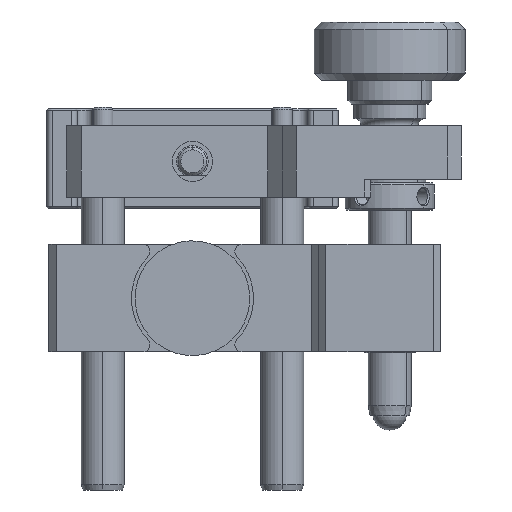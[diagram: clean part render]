
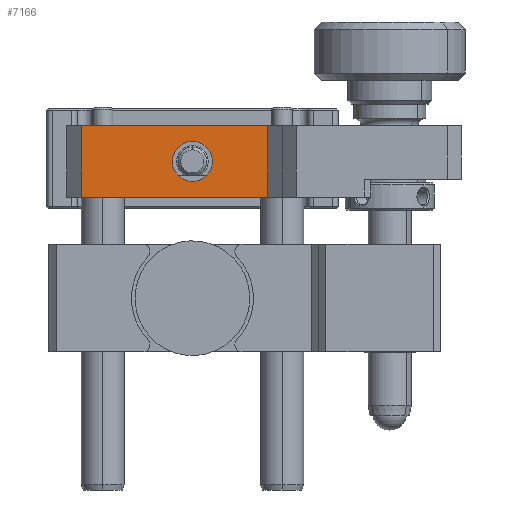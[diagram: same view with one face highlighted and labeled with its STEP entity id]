
A CAD part, front view. The second image highlights one B-rep face of the part: STEP entity #7166.
In plain terms, the highlighted planar face has unit normal (0, -1, 0).
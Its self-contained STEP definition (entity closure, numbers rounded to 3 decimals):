
#2153 = CIRCLE ( 'NONE', #50698, 2.8 ) ;
#3064 = DIRECTION ( 'NONE',  ( 0., 1., 0. ) ) ;
#3266 = DIRECTION ( 'NONE',  ( 0., 0., 1. ) ) ;
#3343 = VERTEX_POINT ( 'NONE', #39241 ) ;
#4147 = LINE ( 'NONE', #32729, #20796 ) ;
#4801 = ORIENTED_EDGE ( 'NONE', *, *, #37695, .F. ) ;
#5792 = EDGE_CURVE ( 'NONE', #35214, #39997, #4147, .T. ) ;
#6168 = VERTEX_POINT ( 'NONE', #47112 ) ;
#6437 = AXIS2_PLACEMENT_3D ( 'NONE', #14880, #15666, #11799 ) ;
#6814 = ORIENTED_EDGE ( 'NONE', *, *, #5792, .T. ) ;
#6848 = EDGE_LOOP ( 'NONE', ( #26618, #6814, #4801, #35412 ) ) ;
#7166 = ADVANCED_FACE ( 'NONE', ( #29874, #50459 ), #45841, .F. ) ;
#7333 = LINE ( 'NONE', #23073, #35290 ) ;
#7630 = CARTESIAN_POINT ( 'NONE',  ( -30., -123.958, 10. ) ) ;
#8730 = EDGE_CURVE ( 'NONE', #3343, #23446, #2153, .T. ) ;
#9368 = VECTOR ( 'NONE', #16757, 1000. ) ;
#11799 = DIRECTION ( 'NONE',  ( 0., 0., 1. ) ) ;
#14880 = CARTESIAN_POINT ( 'NONE',  ( -12.5, -123.958, 5. ) ) ;
#15357 = DIRECTION ( 'NONE',  ( -1., 0., 0. ) ) ;
#15666 = DIRECTION ( 'NONE',  ( 0., 1., 0. ) ) ;
#16264 = LINE ( 'NONE', #24758, #9368 ) ;
#16757 = DIRECTION ( 'NONE',  ( -1., 0., 0. ) ) ;
#20796 = VECTOR ( 'NONE', #48176, 1000. ) ;
#23073 = CARTESIAN_POINT ( 'NONE',  ( -2., -123.958, 10. ) ) ;
#23446 = VERTEX_POINT ( 'NONE', #37364 ) ;
#24758 = CARTESIAN_POINT ( 'NONE',  ( -30., -123.958, 0. ) ) ;
#25722 = EDGE_CURVE ( 'NONE', #23446, #3343, #37706, .T. ) ;
#26276 = CARTESIAN_POINT ( 'NONE',  ( -30., -123.958, 0. ) ) ;
#26618 = ORIENTED_EDGE ( 'NONE', *, *, #50529, .T. ) ;
#26800 = EDGE_CURVE ( 'NONE', #28062, #6168, #7333, .T. ) ;
#28062 = VERTEX_POINT ( 'NONE', #42902 ) ;
#29874 = FACE_BOUND ( 'NONE', #36281, .T. ) ;
#32729 = CARTESIAN_POINT ( 'NONE',  ( -28., -123.958, 0. ) ) ;
#32753 = CARTESIAN_POINT ( 'NONE',  ( -28., -123.958, 0. ) ) ;
#34239 = DIRECTION ( 'NONE',  ( 0., 0., 1. ) ) ;
#34902 = DIRECTION ( 'NONE',  ( 0., 0., 1. ) ) ;
#35214 = VERTEX_POINT ( 'NONE', #44923 ) ;
#35290 = VECTOR ( 'NONE', #34902, 1000. ) ;
#35412 = ORIENTED_EDGE ( 'NONE', *, *, #26800, .T. ) ;
#36281 = EDGE_LOOP ( 'NONE', ( #40853, #49074 ) ) ;
#37364 = CARTESIAN_POINT ( 'NONE',  ( -12.5, -123.958, 2.2 ) ) ;
#37695 = EDGE_CURVE ( 'NONE', #28062, #39997, #16264, .T. ) ;
#37706 = CIRCLE ( 'NONE', #6437, 2.8 ) ;
#38573 = DIRECTION ( 'NONE',  ( 0., 1., 0. ) ) ;
#39241 = CARTESIAN_POINT ( 'NONE',  ( -12.5, -123.958, 7.8 ) ) ;
#39997 = VERTEX_POINT ( 'NONE', #32753 ) ;
#40853 = ORIENTED_EDGE ( 'NONE', *, *, #8730, .T. ) ;
#42674 = LINE ( 'NONE', #7630, #47076 ) ;
#42902 = CARTESIAN_POINT ( 'NONE',  ( -2., -123.958, 0. ) ) ;
#44923 = CARTESIAN_POINT ( 'NONE',  ( -28., -123.958, 10. ) ) ;
#45841 = PLANE ( 'NONE',  #49768 ) ;
#47076 = VECTOR ( 'NONE', #15357, 1000. ) ;
#47112 = CARTESIAN_POINT ( 'NONE',  ( -2., -123.958, 10. ) ) ;
#48176 = DIRECTION ( 'NONE',  ( 0., 0., -1. ) ) ;
#49074 = ORIENTED_EDGE ( 'NONE', *, *, #25722, .T. ) ;
#49642 = CARTESIAN_POINT ( 'NONE',  ( -12.5, -123.958, 5. ) ) ;
#49768 = AXIS2_PLACEMENT_3D ( 'NONE', #26276, #3064, #34239 ) ;
#50459 = FACE_OUTER_BOUND ( 'NONE', #6848, .T. ) ;
#50529 = EDGE_CURVE ( 'NONE', #6168, #35214, #42674, .T. ) ;
#50698 = AXIS2_PLACEMENT_3D ( 'NONE', #49642, #38573, #3266 ) ;
